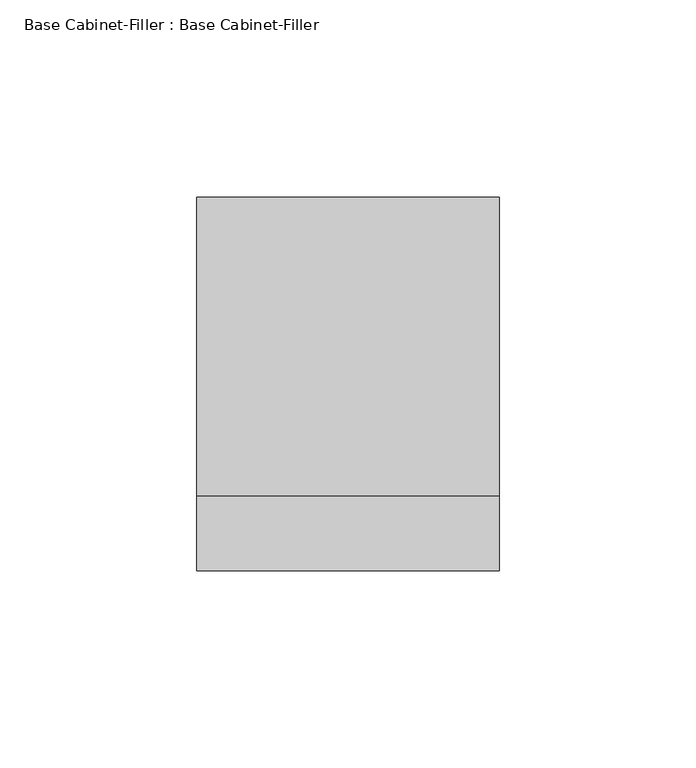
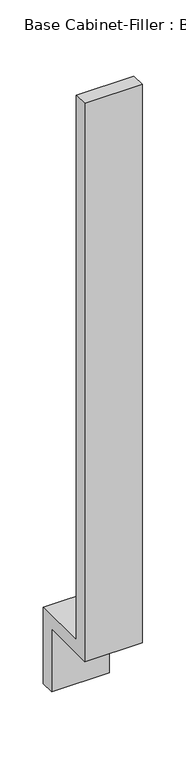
"""IFC4 building model written with IfcOpenShell, lengths in millimetres: furniture geometry, Base Cabinet-Filler : Base Cabinet-Filler."""

from ifc_helpers import new_model, si_unit, frame, origin, place, context, project, spatial, polyline, outline, extrude, source, transform, mapped, element, save


def base_cabinet_filler_base_cabinet_filler_5f1ac9d6(model_context):
    return source(origin(), model_context, "Body", "SweptSolid", [
        extrude(outline(polyline([(-609.6, 88.9), (-609.6, 876.3), (-590.55, 876.3), (-590.55, 107.95), (-514.35, 107.95), (-514.35, 0.0), (-533.4, 0.0), (-533.4, 88.9), (-609.6, 88.9)])), frame((-19.7565717, 0.0, 0.0), z_axis=(1.0, 0.0, 0.0), x_axis=(0.0, 1.0, 0.0)), (0.0, 0.0, 1.0), 76.9885532),
    ])


if __name__ == "__main__":
    model = new_model("IFC4")
    model_context = context("Model", 3, world=origin())
    ifc_project = project(units=[si_unit("LENGTHUNIT", "METRE", prefix="MILLI")], contexts=[model_context])
    site = spatial("IfcSite", under=ifc_project)
    building = spatial("IfcBuilding", under=site)
    placement = place(None, origin())
    base_cabinet_filler_base_cabinet_filler_shape = base_cabinet_filler_base_cabinet_filler_5f1ac9d6(model_context)
    element("IfcFurniture", 1, ObjectType="Base Cabinet-Filler : Base Cabinet-Filler", at=placement, inside=building, context=model_context, shape_type="MappedRepresentation", body=[
        mapped(base_cabinet_filler_base_cabinet_filler_shape, transform((0.0, 0.0, 0.0), x_axis=(1.0, 0.0, 0.0), y_axis=(0.0, 1.0, 0.0), z_axis=(0.0, 0.0, 1.0))),
    ])
    save(model, "model.ifc")
